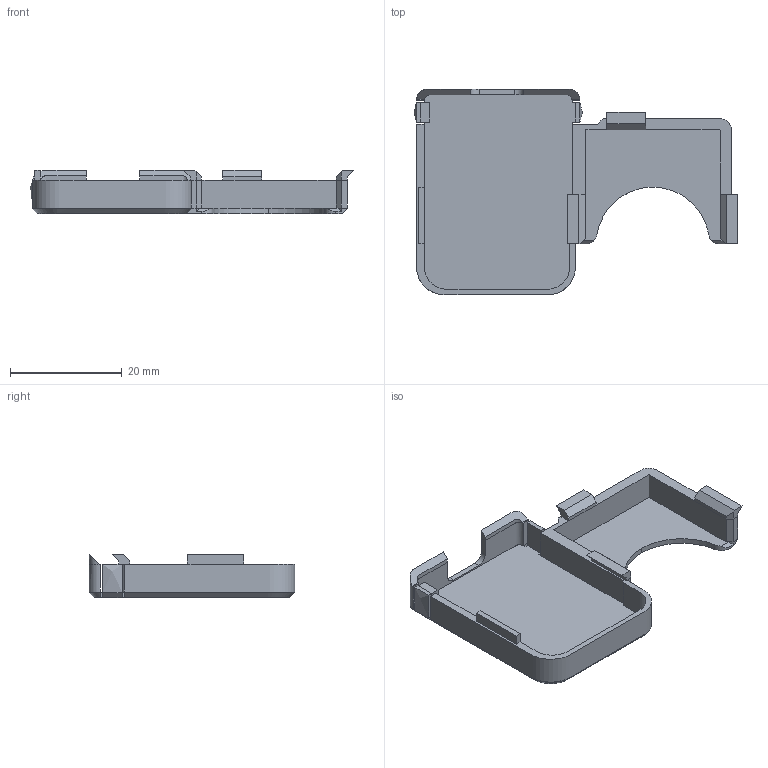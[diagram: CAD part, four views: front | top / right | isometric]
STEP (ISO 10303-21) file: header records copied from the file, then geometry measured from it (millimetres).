
FILE_DESCRIPTION(/* description */ (''),/* implementation_level */ '2;1');
FILE_NAME(/* name */ 'ChipChampCover',/* time_stamp */ '2023-05-05T18:47:27+02:00',/* author */ (''),/* organization */ (''),/* preprocessor_version */ 'ST-DEVELOPER v10',/* originating_system */ '',/* authorisation */ '');
FILE_SCHEMA (('CONFIG_CONTROL_DESIGN'));
Length unit declared in the file: millimetre
Products named in the file (1): 1
Bounding box: 57.99 x 36.84 x 7.78 mm (x, y, z)
Volume: 2642.1 mm3; surface area: 4984.4 mm2
Topology: 1 solids, 1 shells, 123 faces, 306 edges, 185 vertices
Faces by surface type: plane 86, bspline 37
Entity records: 4257 total; most frequent: CARTESIAN_POINT 2147, ORIENTED_EDGE 612, EDGE_CURVE 306, B_SPLINE_CURVE_WITH_KNOTS 270, VERTEX_POINT 185, ADVANCED_FACE 123, FACE_OUTER_BOUND 123, EDGE_LOOP 123
